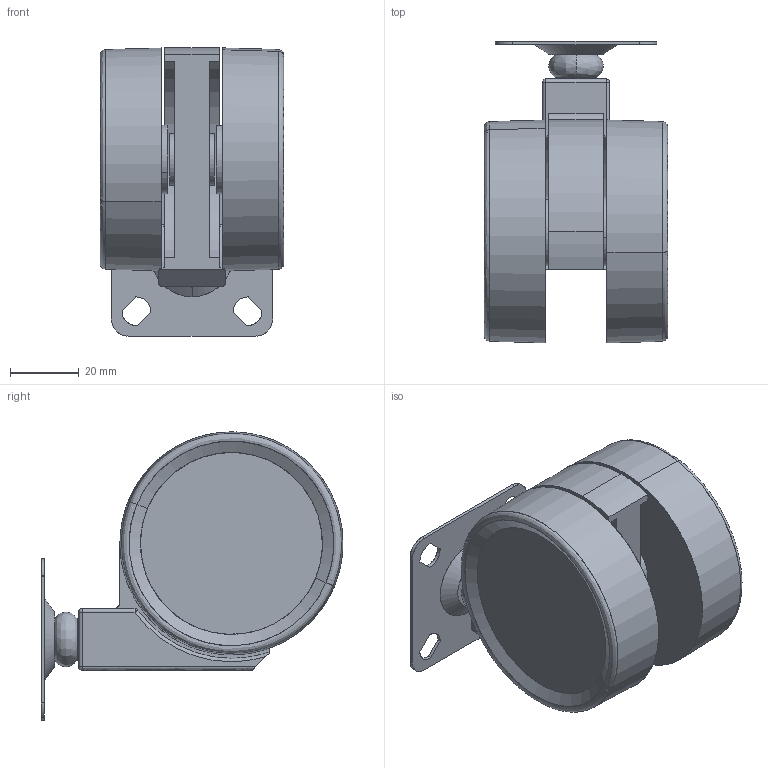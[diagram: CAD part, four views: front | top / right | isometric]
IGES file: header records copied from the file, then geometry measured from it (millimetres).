
Start section: SolidWorks IGES file using analytic representation for surfaces
Bounding box: 53.5 x 88 x 84 mm (x, y, z)
Surface area: 35779.7 mm2 (no closed solid volume)
Topology: 0 solids, 0 shells, 113 faces, 1722 edges, 1716 vertices
Faces by surface type: revolution 66, bspline 47
